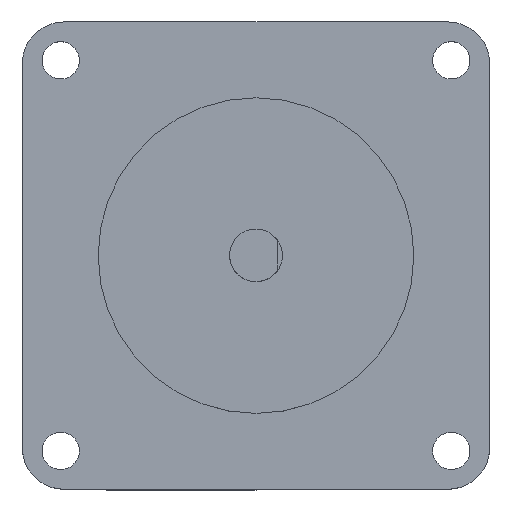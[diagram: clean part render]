
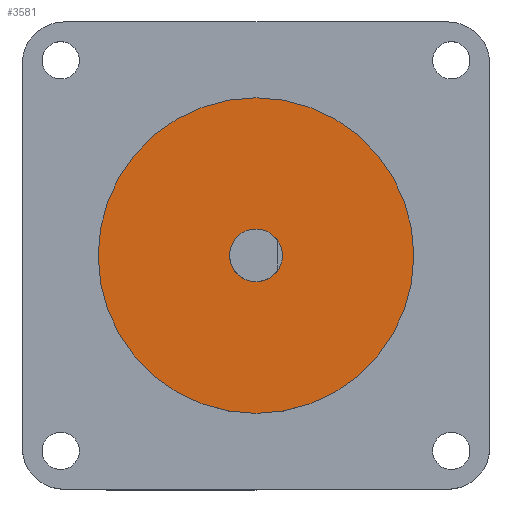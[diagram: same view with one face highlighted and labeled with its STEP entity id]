
A CAD part, top view. The second image highlights one B-rep face of the part: STEP entity #3581.
In plain terms, the highlighted planar face has unit normal (0, 0, 1).
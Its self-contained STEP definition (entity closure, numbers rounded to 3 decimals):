
#25 = CARTESIAN_POINT ( 'NONE',  ( 0., 0., 1.6 ) ) ;
#120 = CIRCLE ( 'NONE', #2736, 3.175 ) ;
#132 = FACE_OUTER_BOUND ( 'NONE', #1159, .T. ) ;
#166 = AXIS2_PLACEMENT_3D ( 'NONE', #3538, #1543, #3875 ) ;
#177 = EDGE_CURVE ( 'NONE', #3349, #818, #1361, .T. ) ;
#292 = DIRECTION ( 'NONE',  ( 1., 0., 0. ) ) ;
#350 = DIRECTION ( 'NONE',  ( 1., 0., 0. ) ) ;
#818 = VERTEX_POINT ( 'NONE', #3551 ) ;
#886 = AXIS2_PLACEMENT_3D ( 'NONE', #4280, #2286, #292 ) ;
#949 = EDGE_CURVE ( 'NONE', #4269, #2234, #1127, .T. ) ;
#982 = AXIS2_PLACEMENT_3D ( 'NONE', #3889, #1903, #4216 ) ;
#1127 = CIRCLE ( 'NONE', #166, 3.175 ) ;
#1159 = EDGE_LOOP ( 'NONE', ( #1348, #3850 ) ) ;
#1348 = ORIENTED_EDGE ( 'NONE', *, *, #2442, .T. ) ;
#1361 = CIRCLE ( 'NONE', #982, 19.05 ) ;
#1391 = DIRECTION ( 'NONE',  ( 0., 0., 1. ) ) ;
#1543 = DIRECTION ( 'NONE',  ( 0., 0., -1. ) ) ;
#1681 = EDGE_CURVE ( 'NONE', #2234, #4269, #120, .T. ) ;
#1885 = ORIENTED_EDGE ( 'NONE', *, *, #949, .T. ) ;
#1887 = FACE_BOUND ( 'NONE', #3470, .T. ) ;
#1903 = DIRECTION ( 'NONE',  ( 0., 0., 1. ) ) ;
#2076 = CARTESIAN_POINT ( 'NONE',  ( -3.175, 0., 1.6 ) ) ;
#2234 = VERTEX_POINT ( 'NONE', #3512 ) ;
#2286 = DIRECTION ( 'NONE',  ( 0., 0., 1. ) ) ;
#2350 = DIRECTION ( 'NONE',  ( 0., 0., -1. ) ) ;
#2442 = EDGE_CURVE ( 'NONE', #818, #3349, #3393, .T. ) ;
#2736 = AXIS2_PLACEMENT_3D ( 'NONE', #25, #2350, #350 ) ;
#2745 = PLANE ( 'NONE',  #3526 ) ;
#2812 = ORIENTED_EDGE ( 'NONE', *, *, #1681, .T. ) ;
#3349 = VERTEX_POINT ( 'NONE', #3688 ) ;
#3389 = CARTESIAN_POINT ( 'NONE',  ( 0., 0., 1.6 ) ) ;
#3393 = CIRCLE ( 'NONE', #886, 19.05 ) ;
#3470 = EDGE_LOOP ( 'NONE', ( #1885, #2812 ) ) ;
#3512 = CARTESIAN_POINT ( 'NONE',  ( 3.175, 0., 1.6 ) ) ;
#3526 = AXIS2_PLACEMENT_3D ( 'NONE', #3389, #1391, #3730 ) ;
#3538 = CARTESIAN_POINT ( 'NONE',  ( 0., 0., 1.6 ) ) ;
#3551 = CARTESIAN_POINT ( 'NONE',  ( -19.05, 0., 1.6 ) ) ;
#3581 = ADVANCED_FACE ( 'NONE', ( #132, #1887 ), #2745, .T. ) ;
#3688 = CARTESIAN_POINT ( 'NONE',  ( 19.05, 0., 1.6 ) ) ;
#3730 = DIRECTION ( 'NONE',  ( 1., 0., 0. ) ) ;
#3850 = ORIENTED_EDGE ( 'NONE', *, *, #177, .T. ) ;
#3875 = DIRECTION ( 'NONE',  ( 1., 0., 0. ) ) ;
#3889 = CARTESIAN_POINT ( 'NONE',  ( 0., 0., 1.6 ) ) ;
#4216 = DIRECTION ( 'NONE',  ( 1., 0., 0. ) ) ;
#4269 = VERTEX_POINT ( 'NONE', #2076 ) ;
#4280 = CARTESIAN_POINT ( 'NONE',  ( 0., 0., 1.6 ) ) ;
